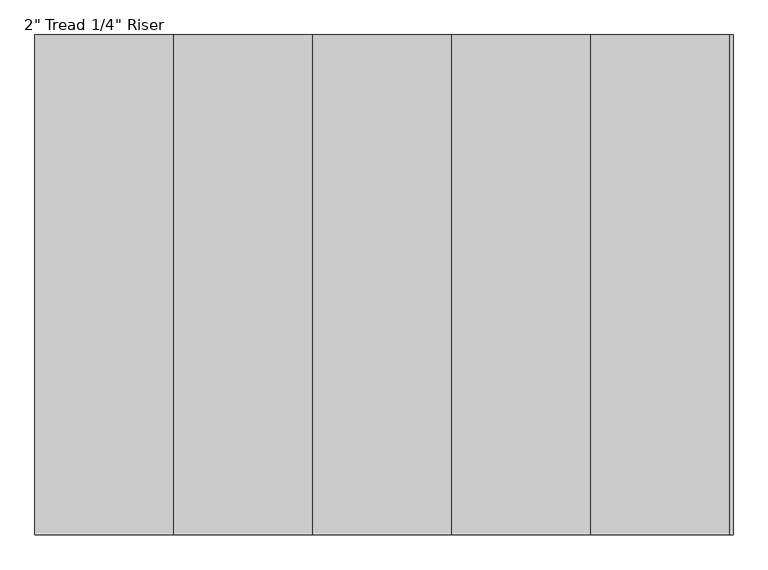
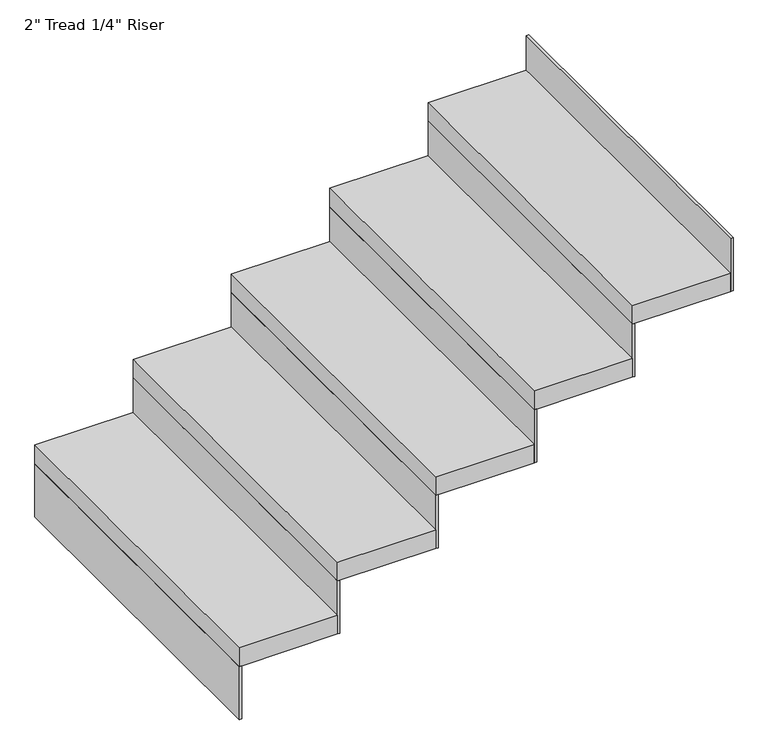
"""IFC4 building model written with IfcOpenShell, lengths in millimetres: stair flight geometry."""

from ifc_helpers import new_model, si_unit, frame, origin, place, context, project, spatial, polyline, outline, extrude, source, transform, mapped, element, save


def stair_flight_82e8a3de(model_context):
    return source(origin(), model_context, "Body", "SweptSolid", [
        extrude(outline(polyline([(162625.1811068, 15766.1265585), (162618.8311068, 15766.1265585), (162618.8311068, 16680.5265585), (162625.1811068, 16680.5265585), (162625.1811068, 15766.1265585)])), frame((0.0, 0.0, 2126.3428571), z_axis=(0.0, 0.0, 1.0), x_axis=(1.0, 0.0, 0.0)), (0.0, 0.0, 1.0), 145.1428571),
        extrude(outline(polyline([(162872.8311068, 16680.5265585), (162872.8311068, 15766.1265585), (162618.8311068, 15766.1265585), (162618.8311068, 16680.5265585), (162872.8311068, 16680.5265585)])), frame((0.0, 0.0, 2271.4857143), z_axis=(0.0, 0.0, 1.0), x_axis=(1.0, 0.0, 0.0)), (0.0, 0.0, 1.0), 50.8),
        extrude(outline(polyline([(162879.1811068, 15766.1265585), (162872.8311068, 15766.1265585), (162872.8311068, 16680.5265585), (162879.1811068, 16680.5265585), (162879.1811068, 15766.1265585)])), frame((0.0, 0.0, 2271.4857143), z_axis=(0.0, 0.0, 1.0), x_axis=(1.0, 0.0, 0.0)), (0.0, 0.0, 1.0), 145.1428571),
        extrude(outline(polyline([(163126.8311068, 16680.5265585), (163126.8311068, 15766.1265585), (162872.8311068, 15766.1265585), (162872.8311068, 16680.5265585), (163126.8311068, 16680.5265585)])), frame((0.0, 0.0, 2416.6285714), z_axis=(0.0, 0.0, 1.0), x_axis=(1.0, 0.0, 0.0)), (0.0, 0.0, 1.0), 50.8),
        extrude(outline(polyline([(163133.1811068, 15766.1265585), (163126.8311068, 15766.1265585), (163126.8311068, 16680.5265585), (163133.1811068, 16680.5265585), (163133.1811068, 15766.1265585)])), frame((0.0, 0.0, 2416.6285714), z_axis=(0.0, 0.0, 1.0), x_axis=(1.0, 0.0, 0.0)), (0.0, 0.0, 1.0), 145.1428571),
        extrude(outline(polyline([(163380.8311068, 16680.5265585), (163380.8311068, 15766.1265585), (163126.8311068, 15766.1265585), (163126.8311068, 16680.5265585), (163380.8311068, 16680.5265585)])), frame((0.0, 0.0, 2561.7714286), z_axis=(0.0, 0.0, 1.0), x_axis=(1.0, 0.0, 0.0)), (0.0, 0.0, 1.0), 50.8),
        extrude(outline(polyline([(163387.1811068, 15766.1265585), (163380.8311068, 15766.1265585), (163380.8311068, 16680.5265585), (163387.1811068, 16680.5265585), (163387.1811068, 15766.1265585)])), frame((0.0, 0.0, 2561.7714286), z_axis=(0.0, 0.0, 1.0), x_axis=(1.0, 0.0, 0.0)), (0.0, 0.0, 1.0), 145.1428571),
        extrude(outline(polyline([(163634.8311068, 16680.5265585), (163634.8311068, 15766.1265585), (163380.8311068, 15766.1265585), (163380.8311068, 16680.5265585), (163634.8311068, 16680.5265585)])), frame((0.0, 0.0, 2706.9142857), z_axis=(0.0, 0.0, 1.0), x_axis=(1.0, 0.0, 0.0)), (0.0, 0.0, 1.0), 50.8),
        extrude(outline(polyline([(163641.1811068, 15766.1265585), (163634.8311068, 15766.1265585), (163634.8311068, 16680.5265585), (163641.1811068, 16680.5265585), (163641.1811068, 15766.1265585)])), frame((0.0, 0.0, 2706.9142857), z_axis=(0.0, 0.0, 1.0), x_axis=(1.0, 0.0, 0.0)), (0.0, 0.0, 1.0), 145.1428571),
        extrude(outline(polyline([(163895.1811068, 15766.1265585), (163888.8311068, 15766.1265585), (163888.8311068, 16680.5265585), (163895.1811068, 16680.5265585), (163895.1811068, 15766.1265585)])), frame((0.0, 0.0, 2852.0571429), z_axis=(0.0, 0.0, 1.0), x_axis=(1.0, 0.0, 0.0)), (0.0, 0.0, 1.0), 145.1428571),
        extrude(outline(polyline([(163888.8311068, 16680.5265585), (163888.8311068, 15766.1265585), (163634.8311068, 15766.1265585), (163634.8311068, 16680.5265585), (163888.8311068, 16680.5265585)])), frame((0.0, 0.0, 2852.0571429), z_axis=(0.0, 0.0, 1.0), x_axis=(1.0, 0.0, 0.0)), (0.0, 0.0, 1.0), 50.8),
    ])


if __name__ == "__main__":
    model = new_model("IFC4")
    model_context = context("Model", 3, world=origin())
    ifc_project = project(units=[si_unit("LENGTHUNIT", "METRE", prefix="MILLI")], contexts=[model_context])
    site = spatial("IfcSite", under=ifc_project)
    building = spatial("IfcBuilding", under=site)
    placement = place(None, origin())
    stair_flight_shape = stair_flight_82e8a3de(model_context)
    element("IfcStairFlight", 1, ObjectType="2\" Tread 1/4\" Riser", at=placement, inside=building, context=model_context, shape_type="MappedRepresentation", body=[
        mapped(stair_flight_shape, transform((0.0, 0.0, 0.0), x_axis=(1.0, 0.0, 0.0), y_axis=(0.0, 1.0, 0.0), z_axis=(0.0, 0.0, 1.0))),
    ])
    save(model, "model.ifc")
